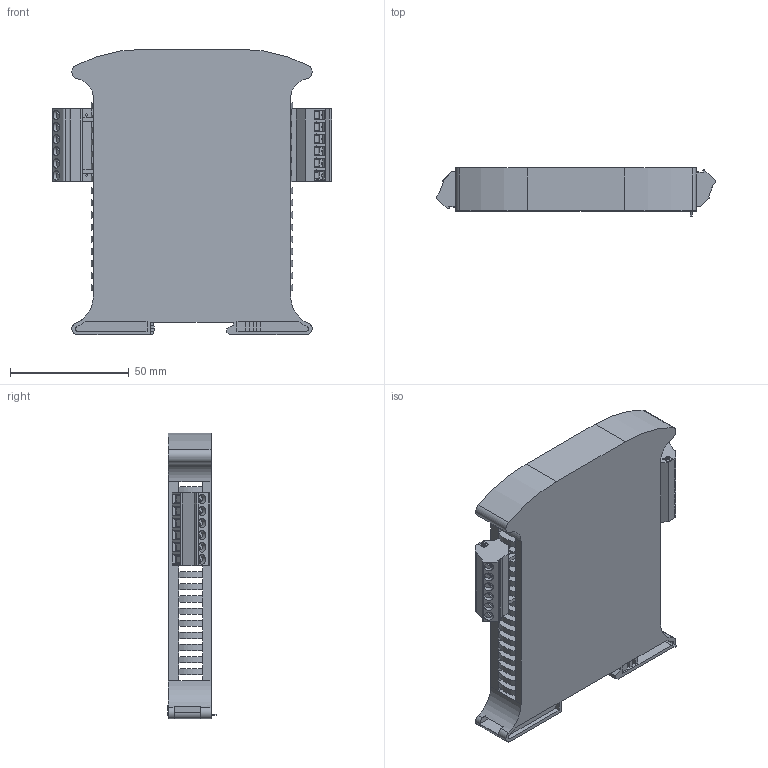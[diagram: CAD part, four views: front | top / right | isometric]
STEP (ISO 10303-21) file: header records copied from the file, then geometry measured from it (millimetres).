
FILE_DESCRIPTION(/* description */ (''),/* implementation_level */ '2;1');
FILE_NAME(/* name */ 'CNL25D_.step',/* time_stamp */ '2023-09-18T09:15:02+02:00',/* author */ (''),/* organization */ (''),/* preprocessor_version */ 'ST-DEVELOPER v20',/* originating_system */ 'Autodesk Translation Framework v12.9.0.99',/* authorisation */ '');
FILE_SCHEMA (('AUTOMOTIVE_DESIGN { 1 0 10303 214 3 1 1 }'));
Length unit declared in the file: millimetre
Products named in the file (5): CNL25D; CAL23D Seguro v5; 1826322 v1; 1826322 v1_1; 1826322
Assembly tree (5 placements, depth 3):
  CNL25D
    CAL23D Seguro v5
    1826322 v1
      1826322
    1826322 v1_1
      1826322
Bounding box: 117.41 x 20.2 x 120 mm (x, y, z)
Volume: 156290.1 mm3; surface area: 72780.8 mm2
Topology: 4 solids, 4 shells, 943 faces, 2513 edges, 1618 vertices
Faces by surface type: plane 693, cylinder 246, sphere 4
Full cylindrical faces by diameter (mm): 0.457 x2, 1.4 x12, 2.8 x10, 3.783 x12, 4 x12
Entity records: 18695 total; most frequent: CARTESIAN_POINT 3163, DIRECTION 3149, ORIENTED_EDGE 3140, EDGE_CURVE 1570, LINE 1191, VECTOR 1191, VERTEX_POINT 993, AXIS2_PLACEMENT_3D 979
